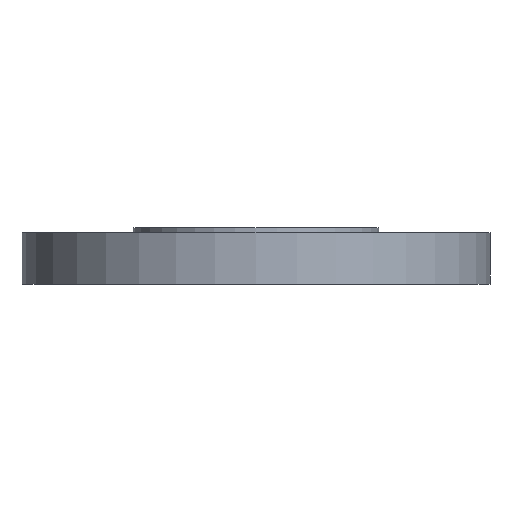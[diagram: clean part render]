
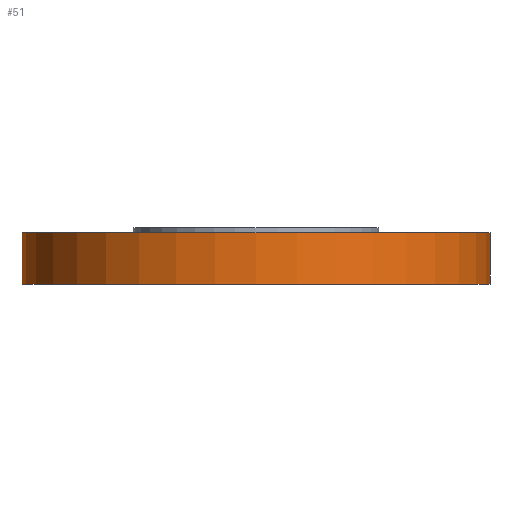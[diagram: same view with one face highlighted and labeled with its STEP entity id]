
A CAD part, front view. The second image highlights one B-rep face of the part: STEP entity #51.
In plain terms, the highlighted cylindrical face has radius 100 mm (diameter 200 mm), a partial arc.
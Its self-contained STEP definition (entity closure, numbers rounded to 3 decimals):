
#51 = ADVANCED_FACE ( 'NONE', ( #584 ), #585, .T. ) ;
#102 = CARTESIAN_POINT ( 'NONE',  ( -100., 0., -24. ) ) ;
#106 = DIRECTION ( 'NONE',  ( 0., 0., 1. ) ) ;
#109 = CARTESIAN_POINT ( 'NONE',  ( 100., 0., -68. ) ) ;
#110 = LINE ( 'NONE', #109, #609 ) ;
#129 = CIRCLE ( 'NONE', #205, 100. ) ;
#140 = CARTESIAN_POINT ( 'NONE',  ( 100., 0., -2. ) ) ;
#157 = CARTESIAN_POINT ( 'NONE',  ( 100., 0., -24. ) ) ;
#168 = CARTESIAN_POINT ( 'NONE',  ( -100., 0., -2. ) ) ;
#177 = CIRCLE ( 'NONE', #737, 100. ) ;
#205 = AXIS2_PLACEMENT_3D ( 'NONE', #721, #722, #471 ) ;
#291 = EDGE_CURVE ( 'NONE', #765, #743, #129, .T. ) ;
#300 = AXIS2_PLACEMENT_3D ( 'NONE', #586, #597, #599 ) ;
#302 = DIRECTION ( 'NONE',  ( -1., 0., 0. ) ) ;
#303 = DIRECTION ( 'NONE',  ( 0., 0., -1. ) ) ;
#306 = CARTESIAN_POINT ( 'NONE',  ( 0., 0., -24. ) ) ;
#320 = DIRECTION ( 'NONE',  ( 0., 0., 1. ) ) ;
#321 = CARTESIAN_POINT ( 'NONE',  ( -100., 0., -68. ) ) ;
#322 = LINE ( 'NONE', #321, #617 ) ;
#471 = DIRECTION ( 'NONE',  ( -1., 0., 0. ) ) ;
#568 = EDGE_CURVE ( 'NONE', #802, #743, #322, .T. ) ;
#584 = FACE_OUTER_BOUND ( 'NONE', #780, .T. ) ;
#585 = CYLINDRICAL_SURFACE ( 'NONE', #300, 100. ) ;
#586 = CARTESIAN_POINT ( 'NONE',  ( 0., 0., -68. ) ) ;
#589 = EDGE_CURVE ( 'NONE', #750, #802, #177, .T. ) ;
#597 = DIRECTION ( 'NONE',  ( 0., 0., 1. ) ) ;
#599 = DIRECTION ( 'NONE',  ( 1., 0., 0. ) ) ;
#609 = VECTOR ( 'NONE', #106, 1000. ) ;
#617 = VECTOR ( 'NONE', #320, 1000. ) ;
#721 = CARTESIAN_POINT ( 'NONE',  ( 0., 0., -2. ) ) ;
#722 = DIRECTION ( 'NONE',  ( 0., 0., -1. ) ) ;
#737 = AXIS2_PLACEMENT_3D ( 'NONE', #306, #303, #302 ) ;
#743 = VERTEX_POINT ( 'NONE', #168 ) ;
#750 = VERTEX_POINT ( 'NONE', #157 ) ;
#753 = ORIENTED_EDGE ( 'NONE', *, *, #291, .T. ) ;
#765 = VERTEX_POINT ( 'NONE', #140 ) ;
#780 = EDGE_LOOP ( 'NONE', ( #891, #892, #893, #753 ) ) ;
#797 = EDGE_CURVE ( 'NONE', #750, #765, #110, .T. ) ;
#802 = VERTEX_POINT ( 'NONE', #102 ) ;
#891 = ORIENTED_EDGE ( 'NONE', *, *, #568, .F. ) ;
#892 = ORIENTED_EDGE ( 'NONE', *, *, #589, .F. ) ;
#893 = ORIENTED_EDGE ( 'NONE', *, *, #797, .T. ) ;
